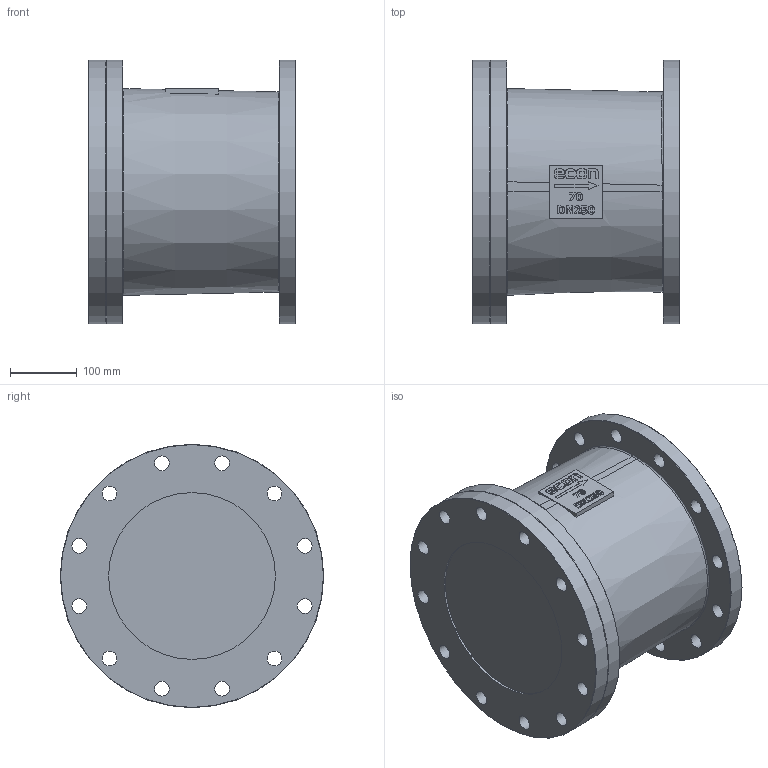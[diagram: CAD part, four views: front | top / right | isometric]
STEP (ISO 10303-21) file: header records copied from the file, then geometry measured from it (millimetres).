
FILE_DESCRIPTION(/* description */ ('Eriks item no: 12160582'),/* implementation_level */ '2;1');
FILE_NAME(/* name */ 'L:\DATA\ENG\Inventor\Econ 3D modellen\terugslagklep\70NGY\70NGY-DN250-PN10-NBR.stp',/* time_stamp */ '2023-12-05T08:13:28+01:00',/* author */ ('roger.thijssen'),/* organization */ (''),/* preprocessor_version */ 'ST-DEVELOPER v18',/* originating_system */ 'Autodesk Inventor 2020',/* authorisation */ '');
FILE_SCHEMA (('CONFIG_CONTROL_DESIGN'));
Length unit declared in the file: millimetre
Products named in the file (1): Check valve, 70NGY-DN250-PN10-NBR
Bounding box: 310 x 395 x 395 mm (x, y, z)
Volume: 26118366.4 mm3; surface area: 709670 mm2
Topology: 1 solids, 1 shells, 229 faces, 618 edges, 412 vertices
Faces by surface type: plane 112, bspline 58, cylinder 50, cone 7, torus 2
Full cylindrical faces by diameter (mm): 22 x24, 250 x2, 395 x3
Entity records: 8032 total; most frequent: CARTESIAN_POINT 2343, ORIENTED_EDGE 1236, DIRECTION 990, EDGE_CURVE 618, VERTEX_POINT 412, LINE 372, VECTOR 372, AXIS2_PLACEMENT_3D 309
